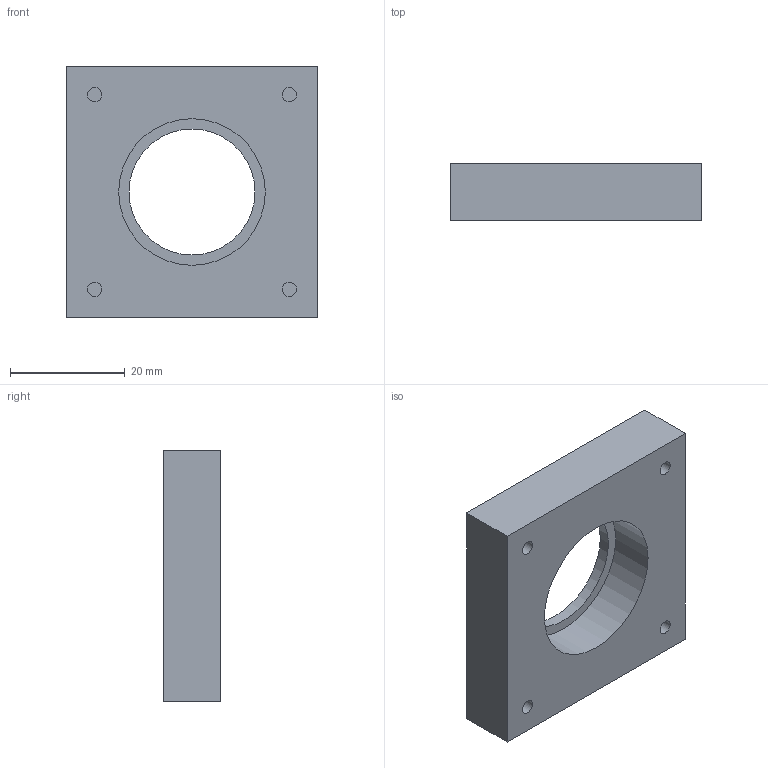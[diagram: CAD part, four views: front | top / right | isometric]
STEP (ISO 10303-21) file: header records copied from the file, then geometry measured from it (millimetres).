
FILE_DESCRIPTION(('Open CASCADE Model'),'2;1');
FILE_NAME('Open CASCADE Shape Model','2026-11-05T14:04:52',('Author'),( 'Open CASCADE'),'Open CASCADE STEP processor 7.8','Open CASCADE 7.8' ,'Unknown');
FILE_SCHEMA(('AUTOMOTIVE_DESIGN { 1 0 10303 214 1 1 1 1 }'));
Length unit declared in the file: millimetre
Products named in the file (1): Open CASCADE STEP translator 7.8 3
Bounding box: 44 x 10 x 44 mm (x, y, z)
Volume: 14306 mm3; surface area: 5912.4 mm2
Topology: 1 solids, 1 shells, 19 faces, 33 edges, 22 vertices
Faces by surface type: plane 12, cylinder 7
Full cylindrical faces by diameter (mm): 2.5 x4, 3.3 x1, 22 x1, 25.6 x1
Entity records: 904 total; most frequent: DIRECTION 153, CARTESIAN_POINT 141, LINE 71, VECTOR 71, ORIENTED_EDGE 66, PCURVE 66, DEFINITIONAL_REPRESENTATION 66, AXIS2_PLACEMENT_3D 34
